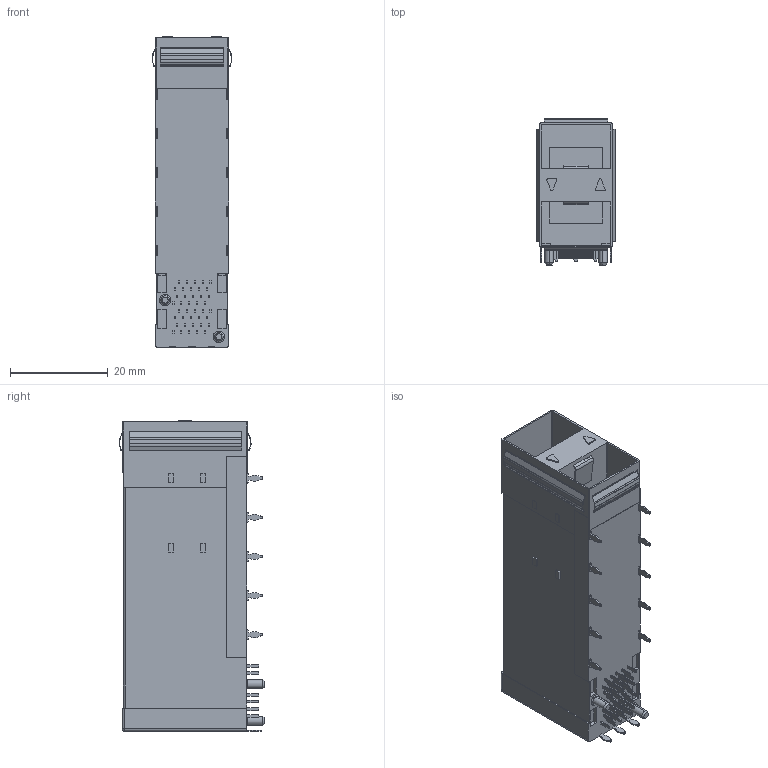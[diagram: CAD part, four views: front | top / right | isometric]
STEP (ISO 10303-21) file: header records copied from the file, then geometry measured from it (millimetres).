
FILE_DESCRIPTION (( 'STEP AP203' ), '1' );
FILE_NAME ('22103_SFP+ 2X1 俋絳嫖翐.STEP', '2024-06-05T00:21:16', ( '' ), ( '' ), 'SwSTEP 2.0', 'SolidWorks 2018', '' );
FILE_SCHEMA (( 'CONFIG_CONTROL_DESIGN' ));
Length unit declared in the file: millimetre
Products named in the file (1): 22103_SFP+ 2X1 俋絳嫖翐
Bounding box: 16.31 x 29.78 x 63.5 mm (x, y, z)
Volume: 12214.9 mm3; surface area: 11430.7 mm2
Topology: 1 solids, 1 shells, 700 faces, 1986 edges, 1354 vertices
Faces by surface type: plane 498, cylinder 192, cone 8, sphere 2
Entity records: 22829 total; most frequent: CARTESIAN_POINT 4039, ORIENTED_EDGE 3968, DIRECTION 3782, EDGE_CURVE 1984, LINE 1588, VECTOR 1588, VERTEX_POINT 1354, AXIS2_PLACEMENT_3D 1097
